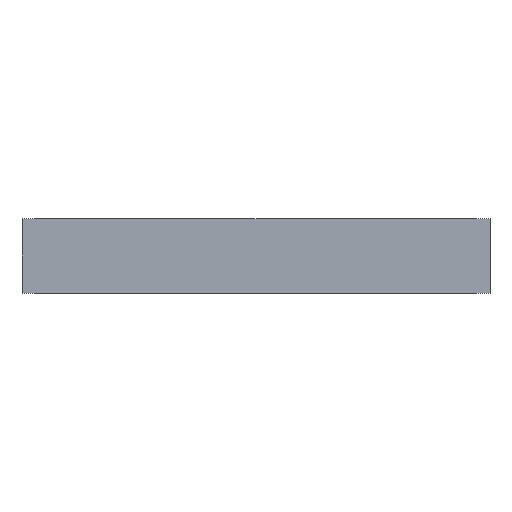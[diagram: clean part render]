
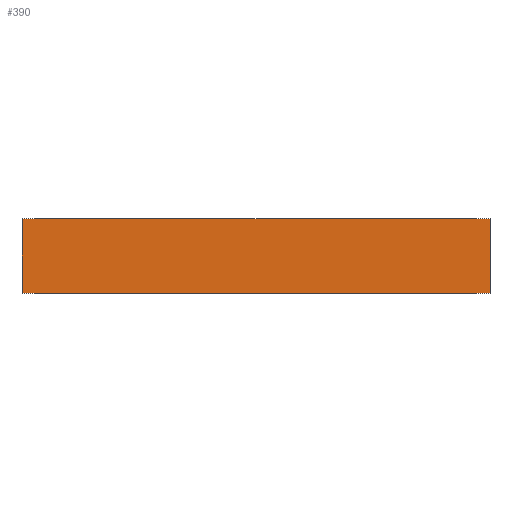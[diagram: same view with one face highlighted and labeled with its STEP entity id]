
A CAD part, front view. The second image highlights one B-rep face of the part: STEP entity #390.
In plain terms, the highlighted planar face has unit normal (0, -1, 0).
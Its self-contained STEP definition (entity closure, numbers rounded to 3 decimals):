
#10 = EDGE_CURVE ( 'NONE', #589, #641, #264, .T. ) ;
#11 = EDGE_CURVE ( 'NONE', #641, #644, #262, .T. ) ;
#35 = AXIS2_PLACEMENT_3D ( 'NONE', #568, #562, #561 ) ;
#61 = EDGE_CURVE ( 'NONE', #589, #635, #191, .T. ) ;
#65 = EDGE_CURVE ( 'NONE', #635, #644, #182, .T. ) ;
#144 = FACE_OUTER_BOUND ( 'NONE', #277, .T. ) ;
#181 = VECTOR ( 'NONE', #621, 1000. ) ;
#182 = LINE ( 'NONE', #622, #181 ) ;
#190 = VECTOR ( 'NONE', #633, 1000. ) ;
#191 = LINE ( 'NONE', #634, #190 ) ;
#255 = VECTOR ( 'NONE', #520, 1000. ) ;
#257 = VECTOR ( 'NONE', #528, 1000. ) ;
#262 = LINE ( 'NONE', #535, #255 ) ;
#264 = LINE ( 'NONE', #555, #257 ) ;
#277 = EDGE_LOOP ( 'NONE', ( #366, #367, #368, #369 ) ) ;
#366 = ORIENTED_EDGE ( 'NONE', *, *, #65, .T. ) ;
#367 = ORIENTED_EDGE ( 'NONE', *, *, #11, .F. ) ;
#368 = ORIENTED_EDGE ( 'NONE', *, *, #10, .F. ) ;
#369 = ORIENTED_EDGE ( 'NONE', *, *, #61, .T. ) ;
#390 = ADVANCED_FACE ( 'NONE', ( #144 ), #596, .F. ) ;
#457 = CARTESIAN_POINT ( 'NONE',  ( 204., 0., 0. ) ) ;
#458 = CARTESIAN_POINT ( 'NONE',  ( 204., 0., 65. ) ) ;
#460 = CARTESIAN_POINT ( 'NONE',  ( -204., 0., 0. ) ) ;
#479 = CARTESIAN_POINT ( 'NONE',  ( -204., 0., 65. ) ) ;
#520 = DIRECTION ( 'NONE',  ( 0., 0., -1. ) ) ;
#528 = DIRECTION ( 'NONE',  ( 1., 0., 0. ) ) ;
#535 = CARTESIAN_POINT ( 'NONE',  ( 204., 0., 65. ) ) ;
#555 = CARTESIAN_POINT ( 'NONE',  ( -204., 0., 65. ) ) ;
#561 = DIRECTION ( 'NONE',  ( -1., 0., 0. ) ) ;
#562 = DIRECTION ( 'NONE',  ( 0., 1., 0. ) ) ;
#568 = CARTESIAN_POINT ( 'NONE',  ( -204., 0., 65. ) ) ;
#589 = VERTEX_POINT ( 'NONE', #479 ) ;
#596 = PLANE ( 'NONE',  #35 ) ;
#621 = DIRECTION ( 'NONE',  ( 1., 0., 0. ) ) ;
#622 = CARTESIAN_POINT ( 'NONE',  ( -204., 0., 0. ) ) ;
#633 = DIRECTION ( 'NONE',  ( 0., 0., -1. ) ) ;
#634 = CARTESIAN_POINT ( 'NONE',  ( -204., 0., 65. ) ) ;
#635 = VERTEX_POINT ( 'NONE', #460 ) ;
#641 = VERTEX_POINT ( 'NONE', #458 ) ;
#644 = VERTEX_POINT ( 'NONE', #457 ) ;
